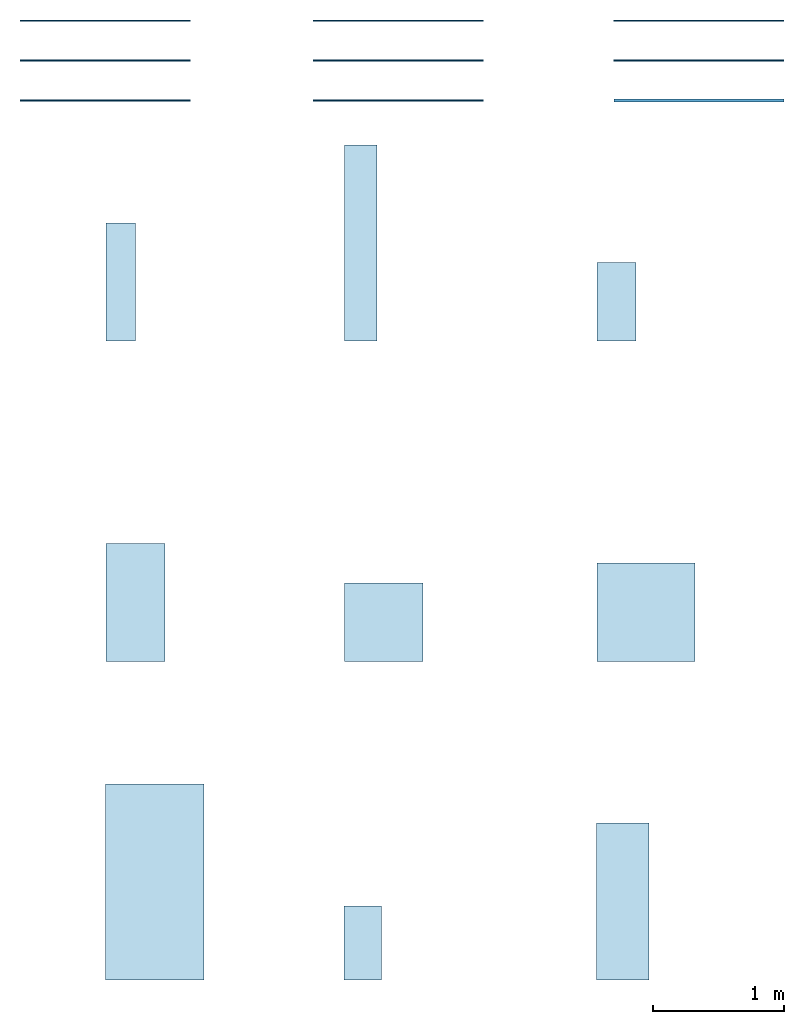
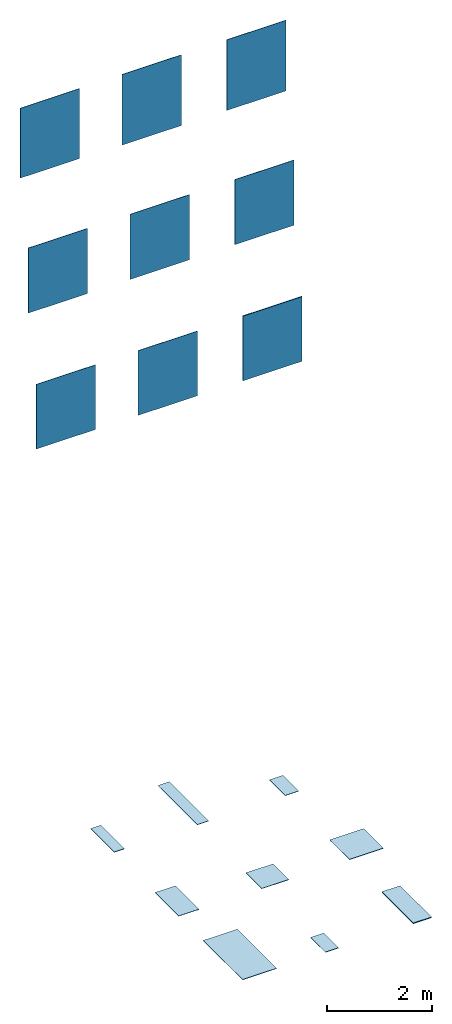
# One storey: 9 slabs, 9 walls.
"""IFC2X3 building model written with IfcOpenShell, lengths in millimetres."""

from ifc_helpers import new_model, entity, si_unit, converted_unit, derived_unit, direction, frame, frame_2d, origin, origin_2d_with_axis, place, context, subcontext, project, spatial, rectangle, extrude, material, layer, layer_set, layer_usage, type_object, element, save


model = new_model("IFC2X3")

# Units and contexts
model_context = context("Model", 3, precision=0.01, world=origin(), true_north=direction((6.12303176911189e-17, 1.0)))
body_context = subcontext(model_context, "Body", "Model", "MODEL_VIEW")
ifc_project = project(units=[si_unit("LENGTHUNIT", "METRE", prefix="MILLI"), si_unit("AREAUNIT", "SQUARE_METRE"), si_unit("VOLUMEUNIT", "CUBIC_METRE"), converted_unit("PLANEANGLEUNIT", "DEGREE", entity("IfcRatioMeasure", 0.0174532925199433), si_unit("PLANEANGLEUNIT", "RADIAN"), dimensions=[0, 0, 0, 0, 0, 0, 0]), si_unit("MASSUNIT", "GRAM", prefix="KILO"), derived_unit("MASSDENSITYUNIT", [(si_unit("MASSUNIT", "GRAM", prefix="KILO"), 1), (si_unit("LENGTHUNIT", "METRE"), -3)]), derived_unit("MOMENTOFINERTIAUNIT", [(si_unit("LENGTHUNIT", "METRE"), 4)]), si_unit("TIMEUNIT", "SECOND"), si_unit("FREQUENCYUNIT", "HERTZ"), si_unit("THERMODYNAMICTEMPERATUREUNIT", "DEGREE_CELSIUS"), derived_unit("THERMALTRANSMITTANCEUNIT", [(si_unit("MASSUNIT", "GRAM", prefix="KILO"), 1), (si_unit("THERMODYNAMICTEMPERATUREUNIT", "KELVIN"), -1), (si_unit("TIMEUNIT", "SECOND"), -3)]), derived_unit("VOLUMETRICFLOWRATEUNIT", [(si_unit("LENGTHUNIT", "METRE"), 3), (si_unit("TIMEUNIT", "SECOND"), -1)]), si_unit("ELECTRICCURRENTUNIT", "AMPERE"), si_unit("ELECTRICVOLTAGEUNIT", "VOLT"), si_unit("POWERUNIT", "WATT"), si_unit("FORCEUNIT", "NEWTON", prefix="KILO"), si_unit("ILLUMINANCEUNIT", "LUX"), si_unit("LUMINOUSFLUXUNIT", "LUMEN"), si_unit("LUMINOUSINTENSITYUNIT", "CANDELA"), derived_unit("USERDEFINED", [(si_unit("MASSUNIT", "GRAM", prefix="KILO"), -1), (si_unit("LENGTHUNIT", "METRE"), -2), (si_unit("TIMEUNIT", "SECOND"), 3), (si_unit("LUMINOUSFLUXUNIT", "LUMEN"), 1)]), derived_unit("LINEARVELOCITYUNIT", [(si_unit("LENGTHUNIT", "METRE"), 1), (si_unit("TIMEUNIT", "SECOND"), -1)]), si_unit("PRESSUREUNIT", "PASCAL"), derived_unit("USERDEFINED", [(si_unit("LENGTHUNIT", "METRE"), -2), (si_unit("MASSUNIT", "GRAM", prefix="KILO"), 1), (si_unit("TIMEUNIT", "SECOND"), -2)]), derived_unit("LINEARFORCEUNIT", [(si_unit("MASSUNIT", "GRAM", prefix="KILO"), 1), (si_unit("LENGTHUNIT", "METRE"), 1), (si_unit("TIMEUNIT", "SECOND"), -2), (si_unit("LENGTHUNIT", "METRE"), -1)]), derived_unit("PLANARFORCEUNIT", [(si_unit("MASSUNIT", "GRAM", prefix="KILO"), 1), (si_unit("LENGTHUNIT", "METRE"), 1), (si_unit("TIMEUNIT", "SECOND"), -2), (si_unit("LENGTHUNIT", "METRE"), -2)])], contexts=[model_context])

# Site, building, storey
site_placement = place(None, origin())
site = spatial("IfcSite", under=ifc_project, at=site_placement, Name="Default", CompositionType="ELEMENT")
building_placement = place(site_placement, origin())
building = spatial("IfcBuilding", under=site, at=building_placement, CompositionType="ELEMENT")
storey_placement = place(building_placement, origin())
storey = spatial("IfcBuildingStorey", under=building, at=storey_placement, Name="Level 0", CompositionType="ELEMENT", Elevation=0.0)

# Slabs
ifc_material_1 = material(Name="Plant-Ash-30x60 NE99")
ifc_layer_1 = layer(ifc_material_1, 9.0)
ifc_material_2 = material(Name="<Unnamed>")
ifc_layer_2 = layer(ifc_material_2, 1.0)
ifc_layer_set_1 = layer_set([ifc_layer_1, ifc_layer_2], Name="Floor:Floor_Tiles_Refin-Plant-Ash-30x60 NE99")
ifc_layer_usage_1 = layer_usage(ifc_layer_set_1, "AXIS3", "POSITIVE", 0.0)
slab_type_1 = type_object("IfcSlabType", Name="Floor:Floor_Tiles_Refin-Plant-Ash-30x60 NE99", PredefinedType="FLOOR", material=ifc_layer_set_1)
slab_1_placement = place(storey_placement, origin())
element("IfcSlab", 1, at=slab_1_placement, inside=storey, type_object=slab_type_1, material=ifc_layer_usage_1, Name="Floor:Floor_Tiles_Refin-Plant-Ash-30x60 NE99", ObjectType="Floor:Floor_Tiles_Refin-Plant-Ash-30x60 NE99", PredefinedType="FLOOR", context=body_context, shape_type="SweptSolid", body=[
    extrude(rectangle(XDim=600.0, YDim=299.999999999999, at=frame_2d((0.0, 1.08002495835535e-12), x_axis=(1.0, 0.0))), frame((10477.1861418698, 5989.46237428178, 0.0), z_axis=(0.0, 0.0, -1.0), x_axis=(0.0, 1.0, 0.0)), (0.0, 0.0, 1.0), 10.0),
])
ifc_material_3 = material(Name="Plant-Ash-22.5x90 LZ17")
ifc_layer_3 = layer(ifc_material_3, 9.0)
ifc_layer_4 = layer(ifc_material_2, 1.0)
ifc_layer_set_2 = layer_set([ifc_layer_3, ifc_layer_4], Name="Floor:Floor_Tiles_Refin-Plant-Ash-22.5x90 LZ17")
ifc_layer_usage_2 = layer_usage(ifc_layer_set_2, "AXIS3", "POSITIVE", 0.0)
slab_type_2 = type_object("IfcSlabType", Name="Floor:Floor_Tiles_Refin-Plant-Ash-22.5x90 LZ17", PredefinedType="FLOOR", material=ifc_layer_set_2)
slab_2_placement = place(storey_placement, origin())
element("IfcSlab", 2, at=slab_2_placement, inside=storey, type_object=slab_type_2, material=ifc_layer_usage_2, Name="Floor:Floor_Tiles_Refin-Plant-Ash-22.5x90 LZ17", ObjectType="Floor:Floor_Tiles_Refin-Plant-Ash-22.5x90 LZ17", PredefinedType="FLOOR", context=body_context, shape_type="SweptSolid", body=[
    extrude(rectangle(XDim=900.0, YDim=225.0, at=frame_2d((-5.40012479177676e-13, -5.40012479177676e-13), x_axis=(1.0, 0.0))), frame((6686.87520617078, 6139.4623742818, 0.0), z_axis=(0.0, 0.0, -1.0), x_axis=(0.0, 1.0, 0.0)), (0.0, 0.0, 1.0), 10.0),
])
ifc_material_4 = material(Name="Plant-Ash-75x75 MT32")
ifc_layer_5 = layer(ifc_material_4, 9.0)
ifc_layer_6 = layer(ifc_material_2, 1.0)
ifc_layer_set_3 = layer_set([ifc_layer_5, ifc_layer_6], Name="Floor:Floor_Tiles_Refin-Plant-Ash-75x75 MT32")
ifc_layer_usage_3 = layer_usage(ifc_layer_set_3, "AXIS3", "POSITIVE", 0.0)
slab_type_3 = type_object("IfcSlabType", Name="Floor:Floor_Tiles_Refin-Plant-Ash-75x75 MT32", PredefinedType="FLOOR", material=ifc_layer_set_3)
slab_3_placement = place(storey_placement, origin())
element("IfcSlab", 3, at=slab_3_placement, inside=storey, type_object=slab_type_3, material=ifc_layer_usage_3, Name="Floor:Floor_Tiles_Refin-Plant-Ash-75x75 MT32", ObjectType="Floor:Floor_Tiles_Refin-Plant-Ash-75x75 MT32", PredefinedType="FLOOR", context=body_context, shape_type="SweptSolid", body=[
    extrude(rectangle(XDim=750.0, YDim=750.000000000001, at=frame_2d((2.55795384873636e-13, 1.08002495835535e-12), x_axis=(1.0, 0.0))), frame((10702.1861418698, 3614.46237428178, 0.0), z_axis=(0.0, 0.0, -1.0), x_axis=(0.0, 1.0, 0.0)), (0.0, 0.0, 1.0), 10.0),
])
ifc_material_5 = material(Name="Plant-Ash-60x60 LY36")
ifc_layer_7 = layer(ifc_material_5, 9.0)
ifc_layer_8 = layer(ifc_material_2, 1.0)
ifc_layer_set_4 = layer_set([ifc_layer_7, ifc_layer_8], Name="Floor:Floor_Tiles_Refin-Plant-Ash-60x60 LY36")
ifc_layer_usage_4 = layer_usage(ifc_layer_set_4, "AXIS3", "POSITIVE", 0.0)
slab_type_4 = type_object("IfcSlabType", Name="Floor:Floor_Tiles_Refin-Plant-Ash-60x60 LY36", PredefinedType="FLOOR", material=ifc_layer_set_4)
slab_4_placement = place(storey_placement, origin())
element("IfcSlab", 4, at=slab_4_placement, inside=storey, type_object=slab_type_4, material=ifc_layer_usage_4, Name="Floor:Floor_Tiles_Refin-Plant-Ash-60x60 LY36", ObjectType="Floor:Floor_Tiles_Refin-Plant-Ash-60x60 LY36", PredefinedType="FLOOR", context=body_context, shape_type="SweptSolid", body=[
    extrude(rectangle(XDim=600.0, YDim=600.0, at=origin_2d_with_axis()), frame((8697.39240545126, 3539.4623742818, 0.0), z_axis=(0.0, 0.0, -1.0), x_axis=(0.0, 1.0, 0.0)), (0.0, 0.0, 1.0), 10.0),
])
ifc_material_6 = material(Name="Plant-Ash-45x90 LY41")
ifc_layer_9 = layer(ifc_material_6, 9.0)
ifc_layer_10 = layer(ifc_material_2, 1.0)
ifc_layer_set_5 = layer_set([ifc_layer_9, ifc_layer_10], Name="Floor:Floor_Tiles_Refin-Plant-Ash-45x90 LY41")
ifc_layer_usage_5 = layer_usage(ifc_layer_set_5, "AXIS3", "POSITIVE", 0.0)
slab_type_5 = type_object("IfcSlabType", Name="Floor:Floor_Tiles_Refin-Plant-Ash-45x90 LY41", PredefinedType="FLOOR", material=ifc_layer_set_5)
slab_5_placement = place(storey_placement, origin())
element("IfcSlab", 5, at=slab_5_placement, inside=storey, type_object=slab_type_5, material=ifc_layer_usage_5, Name="Floor:Floor_Tiles_Refin-Plant-Ash-45x90 LY41", ObjectType="Floor:Floor_Tiles_Refin-Plant-Ash-45x90 LY41", PredefinedType="FLOOR", context=body_context, shape_type="SweptSolid", body=[
    extrude(rectangle(XDim=900.0, YDim=449.999999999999, at=frame_2d((-5.40012479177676e-13, -1.08002495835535e-12), x_axis=(1.0, 0.0))), frame((6799.37520617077, 3689.4623742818, 0.0), z_axis=(0.0, 0.0, -1.0), x_axis=(0.0, 1.0, 0.0)), (0.0, 0.0, 1.0), 10.0),
])
ifc_material_7 = material(Name="Plant-Ash-75x150 LZ33")
ifc_layer_11 = layer(ifc_material_7, 9.0)
ifc_layer_12 = layer(ifc_material_2, 1.0)
ifc_layer_set_6 = layer_set([ifc_layer_11, ifc_layer_12], Name="Floor:Floor_Tiles_Refin-Plant-Ash-75x150 LZ33")
ifc_layer_usage_6 = layer_usage(ifc_layer_set_6, "AXIS3", "POSITIVE", 0.0)
slab_type_6 = type_object("IfcSlabType", Name="Floor:Floor_Tiles_Refin-Plant-Ash-75x150 LZ33", PredefinedType="FLOOR", material=ifc_layer_set_6)
slab_6_placement = place(storey_placement, origin())
element("IfcSlab", 6, at=slab_6_placement, inside=storey, type_object=slab_type_6, material=ifc_layer_usage_6, Name="Floor:Floor_Tiles_Refin-Plant-Ash-75x150 LZ33", ObjectType="Floor:Floor_Tiles_Refin-Plant-Ash-75x150 LZ33", PredefinedType="FLOOR", context=body_context, shape_type="SweptSolid", body=[
    extrude(rectangle(XDim=1500.0, YDim=750.000000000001, at=frame_2d((0.0, -1.08002495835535e-12), x_axis=(1.0, 0.0))), frame((6947.60093306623, 1553.43672349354, 0.0), z_axis=(0.0, 0.0, -1.0), x_axis=(0.0, 1.0, 0.0)), (0.0, 0.0, 1.0), 10.0),
])
ifc_material_8 = material(Name="Plant-Ash-25x150 LZ29")
ifc_layer_13 = layer(ifc_material_8, 9.0)
ifc_layer_14 = layer(ifc_material_2, 1.0)
ifc_layer_set_7 = layer_set([ifc_layer_13, ifc_layer_14], Name="Floor:Floor_Tiles_Refin-Plant-Ash-25x150 LZ29")
ifc_layer_usage_7 = layer_usage(ifc_layer_set_7, "AXIS3", "POSITIVE", 0.0)
slab_type_7 = type_object("IfcSlabType", Name="Floor:Floor_Tiles_Refin-Plant-Ash-25x150 LZ29", PredefinedType="FLOOR", material=ifc_layer_set_7)
slab_7_placement = place(storey_placement, origin())
element("IfcSlab", 7, at=slab_7_placement, inside=storey, type_object=slab_type_7, material=ifc_layer_usage_7, Name="Floor:Floor_Tiles_Refin-Plant-Ash-25x150 LZ29", ObjectType="Floor:Floor_Tiles_Refin-Plant-Ash-25x150 LZ29", PredefinedType="FLOOR", context=body_context, shape_type="SweptSolid", body=[
    extrude(rectangle(XDim=1500.0, YDim=249.999999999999, at=frame_2d((5.11590769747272e-13, 0.0), x_axis=(1.0, 0.0))), frame((8522.39240545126, 6438.41920639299, 0.0), z_axis=(0.0, 0.0, -1.0), x_axis=(0.0, 1.0, 0.0)), (0.0, 0.0, 1.0), 10.0),
])
ifc_material_9 = material(Name="Plant-Ash-Muretto-28.5x56.5 LY92")
ifc_layer_15 = layer(ifc_material_9, 9.0)
ifc_layer_16 = layer(ifc_material_2, 1.0)
ifc_layer_set_8 = layer_set([ifc_layer_15, ifc_layer_16], Name="Floor:Floor_Tiles_Refin-Plant-Ash-Muretto-28.5x56.5 LY92")
ifc_layer_usage_8 = layer_usage(ifc_layer_set_8, "AXIS3", "POSITIVE", 0.0)
slab_type_8 = type_object("IfcSlabType", Name="Floor:Floor_Tiles_Refin-Plant-Ash-Muretto-28.5x56.5 LY92", PredefinedType="FLOOR", material=ifc_layer_set_8)
slab_8_placement = place(storey_placement, origin())
element("IfcSlab", 8, at=slab_8_placement, inside=storey, type_object=slab_type_8, material=ifc_layer_usage_8, Name="Floor:Floor_Tiles_Refin-Plant-Ash-Muretto-28.5x56.5 LY92", ObjectType="Floor:Floor_Tiles_Refin-Plant-Ash-Muretto-28.5x56.5 LY92", PredefinedType="FLOOR", context=body_context, shape_type="SweptSolid", body=[
    extrude(rectangle(XDim=565.0, YDim=285.0, at=origin_2d_with_axis()), frame((8538.11813234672, 1085.93672349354, 0.0), z_axis=(0.0, 0.0, -1.0), x_axis=(0.0, 1.0, 0.0)), (0.0, 0.0, 1.0), 10.0),
])
ifc_material_10 = material(Name="Plant-Ash-OUT2.0-40x120 MH91")
ifc_layer_17 = layer(ifc_material_10, 20.0)
ifc_layer_18 = layer(ifc_material_2, 1.0)
ifc_layer_set_9 = layer_set([ifc_layer_17, ifc_layer_18], Name="Floor:Floor_Tiles_Refin-Plant-Ash-OUT2.0-40x120 MH91")
ifc_layer_usage_9 = layer_usage(ifc_layer_set_9, "AXIS3", "POSITIVE", 0.0)
slab_type_9 = type_object("IfcSlabType", Name="Floor:Floor_Tiles_Refin-Plant-Ash-OUT2.0-40x120 MH91", PredefinedType="FLOOR", material=ifc_layer_set_9)
slab_9_placement = place(storey_placement, origin())
element("IfcSlab", 9, at=slab_9_placement, inside=storey, type_object=slab_type_9, material=ifc_layer_usage_9, Name="Floor:Floor_Tiles_Refin-Plant-Ash-OUT2.0-40x120 MH91", ObjectType="Floor:Floor_Tiles_Refin-Plant-Ash-OUT2.0-40x120 MH91", PredefinedType="FLOOR", context=body_context, shape_type="SweptSolid", body=[
    extrude(rectangle(XDim=1200.0, YDim=400.0, at=origin_2d_with_axis()), frame((10525.4118687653, 1403.43672349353, 0.0), z_axis=(0.0, 0.0, -1.0), x_axis=(0.0, 1.0, 0.0)), (0.0, 0.0, 1.0), 21.0),
])

# Walls
ifc_layer_19 = layer(ifc_material_2, 1.0)
ifc_layer_20 = layer(ifc_material_8, 9.0)
ifc_layer_set_10 = layer_set([ifc_layer_19, ifc_layer_20], Name="Basic Wall:Wall_Tiles_Refin-Plant-Ash-25x150 LZ29")
ifc_layer_usage_10 = layer_usage(ifc_layer_set_10, "AXIS2", "NEGATIVE", 5.0)
wall_type_1 = type_object("IfcWallType", Name="Basic Wall:Wall_Tiles_Refin-Plant-Ash-25x150 LZ29", PredefinedType="STANDARD", material=ifc_layer_set_10)
wall_1_placement = place(storey_placement, frame((8157.37520617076, 8137.38386313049, 14387.6770443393)))
element("IfcWallStandardCase", 10, at=wall_1_placement, inside=storey, type_object=wall_type_1, material=ifc_layer_usage_10, Name="Basic Wall:Wall_Tiles_Refin-Plant-Ash-25x150 LZ29", ObjectType="Basic Wall:Wall_Tiles_Refin-Plant-Ash-25x150 LZ29", context=body_context, shape_type="SweptSolid", body=[
    extrude(rectangle(XDim=1300.0, YDim=9.99999999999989, at=frame_2d((650.0, 7.63833440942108e-14), x_axis=(-1.0, 0.0))), origin(), (0.0, 0.0, 1.0), 1641.74173522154),
])
ifc_layer_21 = layer(ifc_material_2, 1.0)
ifc_layer_22 = layer(ifc_material_1, 9.0)
ifc_layer_set_11 = layer_set([ifc_layer_21, ifc_layer_22], Name="Basic Wall:Wall_Tiles_Refin-Plant-Ash-30x60 NE99")
ifc_layer_usage_11 = layer_usage(ifc_layer_set_11, "AXIS2", "NEGATIVE", 5.0)
wall_type_2 = type_object("IfcWallType", Name="Basic Wall:Wall_Tiles_Refin-Plant-Ash-30x60 NE99", PredefinedType="STANDARD", material=ifc_layer_set_11)
wall_2_placement = place(storey_placement, frame((10457.3752061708, 8137.38386313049, 14387.6770443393)))
element("IfcWallStandardCase", 11, at=wall_2_placement, inside=storey, type_object=wall_type_2, material=ifc_layer_usage_11, Name="Basic Wall:Wall_Tiles_Refin-Plant-Ash-30x60 NE99", ObjectType="Basic Wall:Wall_Tiles_Refin-Plant-Ash-30x60 NE99", context=body_context, shape_type="SweptSolid", body=[
    extrude(rectangle(XDim=1300.0, YDim=9.99999999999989, at=frame_2d((650.0, 7.63833440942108e-14), x_axis=(-1.0, 0.0))), origin(), (0.0, 0.0, 1.0), 1641.74173522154),
])
ifc_layer_23 = layer(ifc_material_2, 1.0)
ifc_layer_24 = layer(ifc_material_3, 9.0)
ifc_layer_set_12 = layer_set([ifc_layer_23, ifc_layer_24], Name="Basic Wall:Wall_Tiles_Refin-Plant-Ash-22.5x90 LZ17")
ifc_layer_usage_12 = layer_usage(ifc_layer_set_12, "AXIS2", "NEGATIVE", 5.0)
wall_type_3 = type_object("IfcWallType", Name="Basic Wall:Wall_Tiles_Refin-Plant-Ash-22.5x90 LZ17", PredefinedType="STANDARD", material=ifc_layer_set_12)
wall_3_placement = place(storey_placement, frame((5917.37520617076, 8137.38386313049, 14403.726734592)))
element("IfcWallStandardCase", 12, at=wall_3_placement, inside=storey, type_object=wall_type_3, material=ifc_layer_usage_12, Name="Basic Wall:Wall_Tiles_Refin-Plant-Ash-22.5x90 LZ17", ObjectType="Basic Wall:Wall_Tiles_Refin-Plant-Ash-22.5x90 LZ17", context=body_context, shape_type="SweptSolid", body=[
    extrude(rectangle(XDim=1300.0, YDim=9.99999999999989, at=frame_2d((650.0, 7.63833440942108e-14), x_axis=(-1.0, 0.0))), origin(), (0.0, 0.0, 1.0), 1625.69204496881),
])
ifc_layer_25 = layer(ifc_material_2, 1.0)
ifc_layer_26 = layer(ifc_material_6, 9.0)
ifc_layer_set_13 = layer_set([ifc_layer_25, ifc_layer_26], Name="Basic Wall:Wall_Tiles_Refin-Plant-Ash-45x90 LY41")
ifc_layer_usage_13 = layer_usage(ifc_layer_set_13, "AXIS2", "NEGATIVE", 5.0)
wall_type_4 = type_object("IfcWallType", Name="Basic Wall:Wall_Tiles_Refin-Plant-Ash-45x90 LY41", PredefinedType="STANDARD", material=ifc_layer_set_13)
wall_4_placement = place(storey_placement, frame((5917.37520617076, 7832.38386313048, 11452.5436262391)))
element("IfcWallStandardCase", 13, at=wall_4_placement, inside=storey, type_object=wall_type_4, material=ifc_layer_usage_13, Name="Basic Wall:Wall_Tiles_Refin-Plant-Ash-45x90 LY41", ObjectType="Basic Wall:Wall_Tiles_Refin-Plant-Ash-45x90 LY41", context=body_context, shape_type="SweptSolid", body=[
    extrude(rectangle(XDim=1300.0, YDim=9.99999999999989, at=frame_2d((650.0, 0.0), x_axis=(-1.0, 0.0))), origin(), (0.0, 0.0, 1.0), 1513.19855655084),
])
ifc_layer_27 = layer(ifc_material_2, 1.0)
ifc_layer_28 = layer(ifc_material_5, 9.0)
ifc_layer_set_14 = layer_set([ifc_layer_27, ifc_layer_28], Name="Basic Wall:Wall_Tiles_Refin-Plant-Ash-60x60 LY36")
ifc_layer_usage_14 = layer_usage(ifc_layer_set_14, "AXIS2", "NEGATIVE", 5.0)
wall_type_5 = type_object("IfcWallType", Name="Basic Wall:Wall_Tiles_Refin-Plant-Ash-60x60 LY36", PredefinedType="STANDARD", material=ifc_layer_set_14)
wall_5_placement = place(storey_placement, frame((8157.37520617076, 7832.38386313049, 11452.5436262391)))
element("IfcWallStandardCase", 14, at=wall_5_placement, inside=storey, type_object=wall_type_5, material=ifc_layer_usage_14, Name="Basic Wall:Wall_Tiles_Refin-Plant-Ash-60x60 LY36", ObjectType="Basic Wall:Wall_Tiles_Refin-Plant-Ash-60x60 LY36", context=body_context, shape_type="SweptSolid", body=[
    extrude(rectangle(XDim=1300.0, YDim=9.99999999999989, at=frame_2d((650.0, 0.0), x_axis=(-1.0, 0.0))), origin(), (0.0, 0.0, 1.0), 1513.19855655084),
])
ifc_layer_29 = layer(ifc_material_2, 1.0)
ifc_layer_30 = layer(ifc_material_4, 9.0)
ifc_layer_set_15 = layer_set([ifc_layer_29, ifc_layer_30], Name="Basic Wall:Wall_Tiles_Refin-Plant-Ash-75x75 MT32")
ifc_layer_usage_15 = layer_usage(ifc_layer_set_15, "AXIS2", "NEGATIVE", 5.0)
wall_type_6 = type_object("IfcWallType", Name="Basic Wall:Wall_Tiles_Refin-Plant-Ash-75x75 MT32", PredefinedType="STANDARD", material=ifc_layer_set_15)
wall_6_placement = place(storey_placement, frame((10457.3752061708, 7832.38386313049, 11452.5436262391)))
element("IfcWallStandardCase", 15, at=wall_6_placement, inside=storey, type_object=wall_type_6, material=ifc_layer_usage_15, Name="Basic Wall:Wall_Tiles_Refin-Plant-Ash-75x75 MT32", ObjectType="Basic Wall:Wall_Tiles_Refin-Plant-Ash-75x75 MT32", context=body_context, shape_type="SweptSolid", body=[
    extrude(rectangle(XDim=1300.0, YDim=9.99999999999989, at=frame_2d((650.000000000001, 0.0), x_axis=(-1.0, 0.0))), origin(), (0.0, 0.0, 1.0), 1513.19855655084),
])
ifc_layer_31 = layer(ifc_material_2, 1.0)
ifc_layer_32 = layer(ifc_material_7, 9.0)
ifc_layer_set_16 = layer_set([ifc_layer_31, ifc_layer_32], Name="Basic Wall:Wall_Tiles_Refin-Plant-Ash-75x150 LZ33")
ifc_layer_usage_16 = layer_usage(ifc_layer_set_16, "AXIS2", "NEGATIVE", 5.0)
wall_type_7 = type_object("IfcWallType", Name="Basic Wall:Wall_Tiles_Refin-Plant-Ash-75x150 LZ33", PredefinedType="STANDARD", material=ifc_layer_set_16)
wall_7_placement = place(storey_placement, frame((5917.37520617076, 7527.38386313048, 8479.10272143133)))
element("IfcWallStandardCase", 16, at=wall_7_placement, inside=storey, type_object=wall_type_7, material=ifc_layer_usage_16, Name="Basic Wall:Wall_Tiles_Refin-Plant-Ash-75x150 LZ33", ObjectType="Basic Wall:Wall_Tiles_Refin-Plant-Ash-75x150 LZ33", context=body_context, shape_type="SweptSolid", body=[
    extrude(rectangle(XDim=1300.0, YDim=9.99999999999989, at=frame_2d((650.0, 0.0), x_axis=(-1.0, 0.0))), origin(), (0.0, 0.0, 1.0), 1502.57401590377),
])
ifc_layer_33 = layer(ifc_material_2, 1.0)
ifc_layer_34 = layer(ifc_material_9, 9.0)
ifc_layer_set_17 = layer_set([ifc_layer_33, ifc_layer_34], Name="Basic Wall:Wall_Tiles_Refin-Plant-Ash-Muretto-28.5x56.5 LY92")
ifc_layer_usage_17 = layer_usage(ifc_layer_set_17, "AXIS2", "NEGATIVE", 5.0)
wall_type_8 = type_object("IfcWallType", Name="Basic Wall:Wall_Tiles_Refin-Plant-Ash-Muretto-28.5x56.5 LY92", PredefinedType="STANDARD", material=ifc_layer_set_17)
wall_8_placement = place(storey_placement, frame((8157.37520617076, 7527.38386313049, 8479.10272143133)))
element("IfcWallStandardCase", 17, at=wall_8_placement, inside=storey, type_object=wall_type_8, material=ifc_layer_usage_17, Name="Basic Wall:Wall_Tiles_Refin-Plant-Ash-Muretto-28.5x56.5 LY92", ObjectType="Basic Wall:Wall_Tiles_Refin-Plant-Ash-Muretto-28.5x56.5 LY92", context=body_context, shape_type="SweptSolid", body=[
    extrude(rectangle(XDim=1300.0, YDim=9.99999999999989, at=frame_2d((650.0, 0.0), x_axis=(-1.0, 0.0))), origin(), (0.0, 0.0, 1.0), 1502.57401590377),
])
ifc_layer_35 = layer(ifc_material_2, 1.0)
ifc_layer_36 = layer(ifc_material_10, 20.0)
ifc_layer_set_18 = layer_set([ifc_layer_35, ifc_layer_36], Name="Basic Wall:Wall_Tiles_Refin-Plant-Ash-OUT2.0-40x120 MH91")
ifc_layer_usage_18 = layer_usage(ifc_layer_set_18, "AXIS2", "NEGATIVE", 10.5)
wall_type_9 = type_object("IfcWallType", Name="Basic Wall:Wall_Tiles_Refin-Plant-Ash-OUT2.0-40x120 MH91", PredefinedType="STANDARD", material=ifc_layer_set_18)
wall_9_placement = place(storey_placement, frame((10457.3752061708, 7527.38386313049, 8479.10272143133)))
element("IfcWallStandardCase", 18, at=wall_9_placement, inside=storey, type_object=wall_type_9, material=ifc_layer_usage_18, Name="Basic Wall:Wall_Tiles_Refin-Plant-Ash-OUT2.0-40x120 MH91", ObjectType="Basic Wall:Wall_Tiles_Refin-Plant-Ash-OUT2.0-40x120 MH91", context=body_context, shape_type="SweptSolid", body=[
    extrude(rectangle(XDim=1300.0, YDim=20.9999999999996, at=frame_2d((650.000000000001, 0.0), x_axis=(-1.0, 0.0))), origin(), (0.0, 0.0, 1.0), 1502.57401590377),
])

save(model, "model.ifc")
